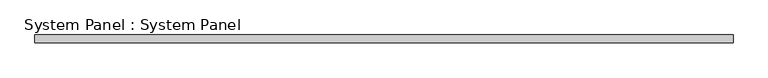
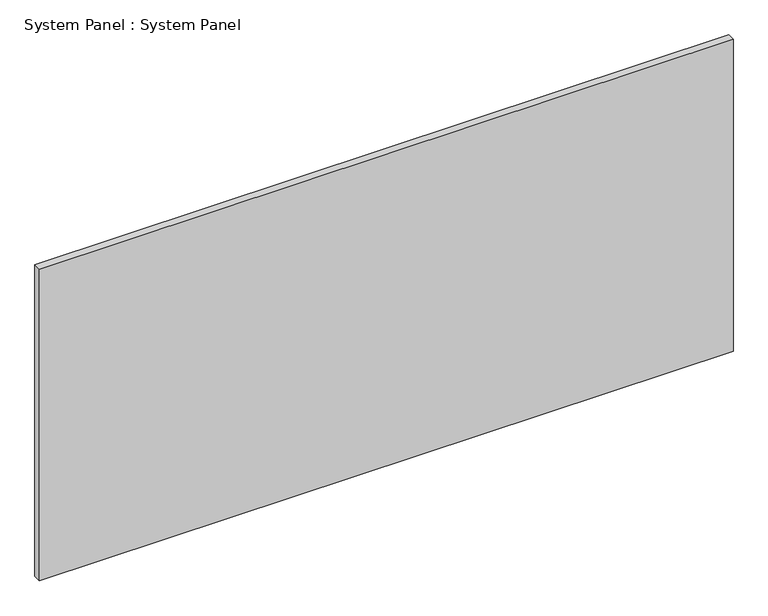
"""IFC4 building model written with IfcOpenShell, lengths in millimetres: plate geometry, System Panel : System Panel."""

from ifc_helpers import new_model, si_unit, origin, origin_with_axes, place, context, project, spatial, polyline, outline, extrude, source, transform, mapped, element, save


def system_panel_system_panel_e7415253(model_context):
    return source(origin(), model_context, "Body", "SweptSolid", [
        extrude(outline(polyline([(1149.35, 19.05), (-1149.35, 19.05), (-1149.35, 44.45), (1149.35, 44.45), (1149.35, 19.05)])), origin_with_axes(), (0.0, 0.0, 1.0), 1092.2),
    ])


if __name__ == "__main__":
    model = new_model("IFC4")
    model_context = context("Model", 3, world=origin())
    ifc_project = project(units=[si_unit("LENGTHUNIT", "METRE", prefix="MILLI")], contexts=[model_context])
    site = spatial("IfcSite", under=ifc_project)
    building = spatial("IfcBuilding", under=site)
    placement = place(None, origin())
    system_panel_system_panel_shape = system_panel_system_panel_e7415253(model_context)
    element("IfcPlate", 1, ObjectType="System Panel : System Panel", at=placement, inside=building, context=model_context, shape_type="MappedRepresentation", body=[
        mapped(system_panel_system_panel_shape, transform((0.0, 0.0, 0.0), x_axis=(1.0, 0.0, 0.0), y_axis=(0.0, 1.0, 0.0), z_axis=(0.0, 0.0, 1.0))),
    ])
    save(model, "model.ifc")
